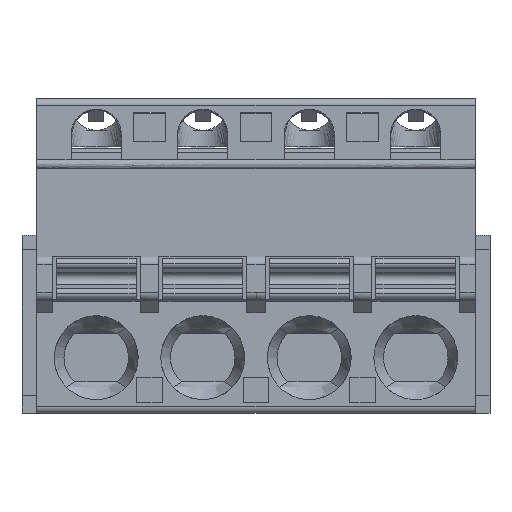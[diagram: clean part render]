
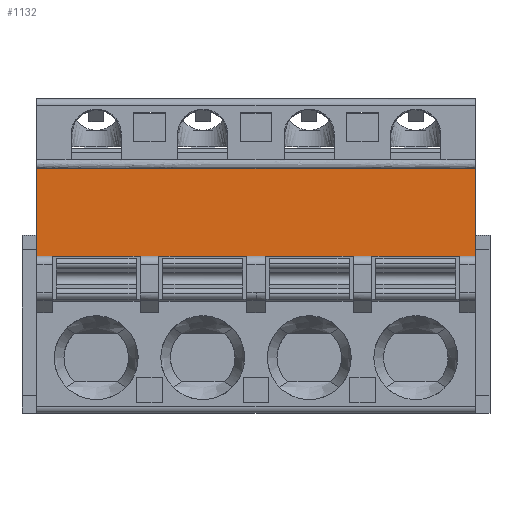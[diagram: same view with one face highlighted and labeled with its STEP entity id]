
A CAD part, front view. The second image highlights one B-rep face of the part: STEP entity #1132.
In plain terms, the highlighted planar face has unit normal (0, -1, 0).
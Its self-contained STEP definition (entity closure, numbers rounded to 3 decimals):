
#1132=ADVANCED_FACE('',(#7722),#7724,.T.);
#7722=FACE_BOUND('',#7723,.T.);
#7723=EDGE_LOOP('',(#15352,#15353,#15354,#15355,#15356,#15357,#15358,#15359,#15360,
#15361,#15362,#15363));
#7724=PLANE('',#7725);
#7725=AXIS2_PLACEMENT_3D('',#7726,#7727,#7728);
#7726=CARTESIAN_POINT('',(5.38,-14.7,-7.6));
#7727=DIRECTION('',(0.,-1.,0.));
#7728=DIRECTION('',(0.,0.,1.));
#15352=ORIENTED_EDGE('',*,*,#19084,.F.);
#15353=ORIENTED_EDGE('',*,*,#19429,.F.);
#15354=ORIENTED_EDGE('',*,*,#19430,.T.);
#15355=ORIENTED_EDGE('',*,*,#19431,.F.);
#15356=ORIENTED_EDGE('',*,*,#19432,.T.);
#15357=ORIENTED_EDGE('',*,*,#19433,.F.);
#15358=ORIENTED_EDGE('',*,*,#19434,.T.);
#15359=ORIENTED_EDGE('',*,*,#19435,.F.);
#15360=ORIENTED_EDGE('',*,*,#19436,.T.);
#15361=ORIENTED_EDGE('',*,*,#19437,.F.);
#15362=ORIENTED_EDGE('',*,*,#19153,.T.);
#15363=ORIENTED_EDGE('',*,*,#19008,.T.);
#19008=EDGE_CURVE('',#21353,#21351,#21354,.T.);
#19084=EDGE_CURVE('',#21497,#21351,#21499,.T.);
#19153=EDGE_CURVE('',#21603,#21353,#21604,.T.);
#19429=EDGE_CURVE('',#22067,#21497,#22068,.T.);
#19430=EDGE_CURVE('',#22067,#22069,#22070,.T.);
#19431=EDGE_CURVE('',#22071,#22069,#22072,.T.);
#19432=EDGE_CURVE('',#22071,#22073,#22074,.T.);
#19433=EDGE_CURVE('',#22075,#22073,#22076,.T.);
#19434=EDGE_CURVE('',#22075,#22077,#22078,.T.);
#19435=EDGE_CURVE('',#22079,#22077,#22080,.T.);
#19436=EDGE_CURVE('',#22079,#22081,#22082,.T.);
#19437=EDGE_CURVE('',#21603,#22081,#22083,.T.);
#21351=VERTEX_POINT('',#25235);
#21353=VERTEX_POINT('',#25241);
#21354=B_SPLINE_CURVE_WITH_KNOTS('',1,
(#25242,#25243),
.UNSPECIFIED.,.F.,.F.,
(2,2),
(0.,1.),
.UNSPECIFIED.);
#21497=VERTEX_POINT('',#25536);
#21499=LINE('',#25540,#25541);
#21603=VERTEX_POINT('',#25786);
#21604=LINE('',#25787,#25788);
#22067=VERTEX_POINT('',#27255);
#22068=LINE('',#27256,#27257);
#22069=VERTEX_POINT('',#27259);
#22070=LINE('',#27260,#27261);
#22071=VERTEX_POINT('',#27263);
#22072=LINE('',#27264,#27265);
#22073=VERTEX_POINT('',#27267);
#22074=LINE('',#27268,#27269);
#22075=VERTEX_POINT('',#27271);
#22076=LINE('',#27272,#27273);
#22077=VERTEX_POINT('',#27275);
#22078=LINE('',#27276,#27277);
#22079=VERTEX_POINT('',#27279);
#22080=LINE('',#27280,#27281);
#22081=VERTEX_POINT('',#27283);
#22082=LINE('',#27284,#27285);
#22083=LINE('',#27287,#27288);
#25235=CARTESIAN_POINT('',(-15.54,-14.7,-3.35));
#25241=CARTESIAN_POINT('',(5.38,-14.7,-3.35));
#25242=CARTESIAN_POINT('',(5.38,-14.7,-3.35));
#25243=CARTESIAN_POINT('',(-15.54,-14.7,-3.35));
#25536=CARTESIAN_POINT('',(-15.54,-14.7,-7.5));
#25540=CARTESIAN_POINT('',(-15.54,-14.7,-7.5));
#25541=VECTOR('',#25542,1.);
#25542=DIRECTION('',(0.,0.,1.));
#25786=CARTESIAN_POINT('',(5.38,-14.7,-7.5));
#25787=CARTESIAN_POINT('',(5.38,-14.7,-7.5));
#25788=VECTOR('',#25789,1.);
#25789=DIRECTION('',(0.,0.,1.));
#27255=CARTESIAN_POINT('',(-14.79,-14.7,-7.5));
#27256=CARTESIAN_POINT('',(-14.79,-14.7,-7.5));
#27257=VECTOR('',#27258,1.);
#27258=DIRECTION('',(-1.,0.,0.));
#27259=CARTESIAN_POINT('',(-10.61,-14.7,-7.5));
#27260=CARTESIAN_POINT('',(-14.79,-14.7,-7.5));
#27261=VECTOR('',#27262,1.);
#27262=DIRECTION('',(1.,0.,0.));
#27263=CARTESIAN_POINT('',(-9.71,-14.7,-7.5));
#27264=CARTESIAN_POINT('',(-9.71,-14.7,-7.5));
#27265=VECTOR('',#27266,1.);
#27266=DIRECTION('',(-1.,0.,0.));
#27267=CARTESIAN_POINT('',(-5.53,-14.7,-7.5));
#27268=CARTESIAN_POINT('',(-9.71,-14.7,-7.5));
#27269=VECTOR('',#27270,1.);
#27270=DIRECTION('',(1.,0.,0.));
#27271=CARTESIAN_POINT('',(-4.63,-14.7,-7.5));
#27272=CARTESIAN_POINT('',(-4.63,-14.7,-7.5));
#27273=VECTOR('',#27274,1.);
#27274=DIRECTION('',(-1.,0.,0.));
#27275=CARTESIAN_POINT('',(-0.45,-14.7,-7.5));
#27276=CARTESIAN_POINT('',(-4.63,-14.7,-7.5));
#27277=VECTOR('',#27278,1.);
#27278=DIRECTION('',(1.,0.,0.));
#27279=CARTESIAN_POINT('',(0.45,-14.7,-7.5));
#27280=CARTESIAN_POINT('',(0.45,-14.7,-7.5));
#27281=VECTOR('',#27282,1.);
#27282=DIRECTION('',(-1.,0.,0.));
#27283=CARTESIAN_POINT('',(4.63,-14.7,-7.5));
#27284=CARTESIAN_POINT('',(0.45,-14.7,-7.5));
#27285=VECTOR('',#27286,1.);
#27286=DIRECTION('',(1.,0.,0.));
#27287=CARTESIAN_POINT('',(5.38,-14.7,-7.5));
#27288=VECTOR('',#27289,1.);
#27289=DIRECTION('',(-1.,0.,0.));
